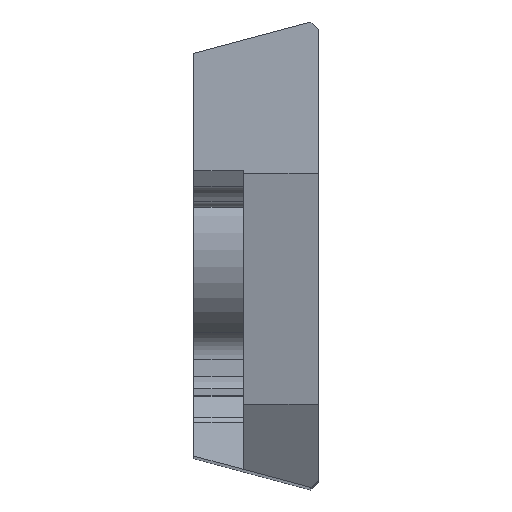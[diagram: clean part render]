
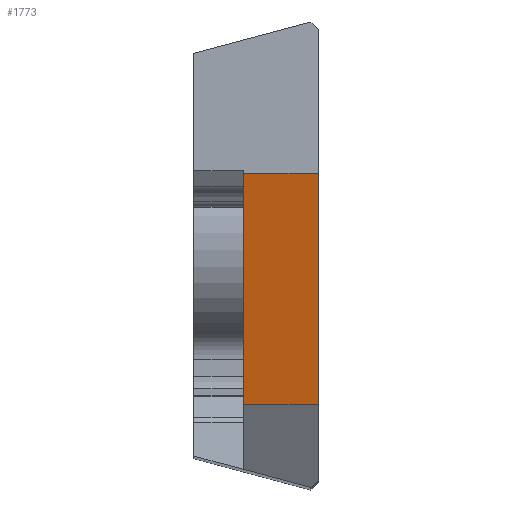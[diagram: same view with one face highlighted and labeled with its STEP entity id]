
A CAD part, top view. The second image highlights one B-rep face of the part: STEP entity #1773.
In plain terms, the highlighted planar face has unit normal (0, -0.208, 0.978).
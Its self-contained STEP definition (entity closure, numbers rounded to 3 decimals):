
#1765=AXIS2_PLACEMENT_3D('Plane Axis2P3D',#1762,#1763,#1764) ;
#332=CARTESIAN_POINT('Vertex',(0.,21.539,0.)) ;
#335=CARTESIAN_POINT('Line Origine',(0.,13.664,-1.674)) ;
#339=CARTESIAN_POINT('Vertex',(0.,5.789,-3.348)) ;
#1646=CARTESIAN_POINT('Vertex',(-5.1,5.789,-3.348)) ;
#1649=CARTESIAN_POINT('Line Origine',(-5.1,13.664,-1.674)) ;
#1653=CARTESIAN_POINT('Vertex',(-5.1,21.539,0.)) ;
#1705=CARTESIAN_POINT('Line Origine',(-2.55,21.539,0.)) ;
#1737=CARTESIAN_POINT('Line Origine',(-2.55,5.789,-3.348)) ;
#1762=CARTESIAN_POINT('Axis2P3D Location',(-7.,5.789,-3.348)) ;
#336=DIRECTION('Vector Direction',(0.,0.978,0.208)) ;
#1650=DIRECTION('Vector Direction',(0.,0.978,0.208)) ;
#1706=DIRECTION('Vector Direction',(-1.,0.,0.)) ;
#1738=DIRECTION('Vector Direction',(-1.,0.,0.)) ;
#1763=DIRECTION('Axis2P3D Direction',(0.,-0.208,0.978)) ;
#1764=DIRECTION('Axis2P3D XDirection',(0.,0.978,0.208)) ;
#337=VECTOR('Line Direction',#336,1.) ;
#1651=VECTOR('Line Direction',#1650,1.) ;
#1707=VECTOR('Line Direction',#1706,1.) ;
#1739=VECTOR('Line Direction',#1738,1.) ;
#1768=ORIENTED_EDGE('',*,*,#1741,.F.) ;
#1769=ORIENTED_EDGE('',*,*,#341,.T.) ;
#1770=ORIENTED_EDGE('',*,*,#1709,.T.) ;
#1771=ORIENTED_EDGE('',*,*,#1655,.F.) ;
#1773=ADVANCED_FACE('NO_CUT',(#1772),#1766,.T.) ;
#341=EDGE_CURVE('',#340,#333,#338,.T.) ;
#1655=EDGE_CURVE('',#1647,#1654,#1652,.T.) ;
#1709=EDGE_CURVE('',#333,#1654,#1708,.T.) ;
#1741=EDGE_CURVE('',#340,#1647,#1740,.T.) ;
#1767=EDGE_LOOP('',(#1768,#1769,#1770,#1771)) ;
#1772=FACE_OUTER_BOUND('',#1767,.T.) ;
#338=LINE('Line',#335,#337) ;
#1652=LINE('Line',#1649,#1651) ;
#1708=LINE('Line',#1705,#1707) ;
#1740=LINE('Line',#1737,#1739) ;
#1766=PLANE('Plane',#1765) ;
#333=VERTEX_POINT('',#332) ;
#340=VERTEX_POINT('',#339) ;
#1647=VERTEX_POINT('',#1646) ;
#1654=VERTEX_POINT('',#1653) ;
